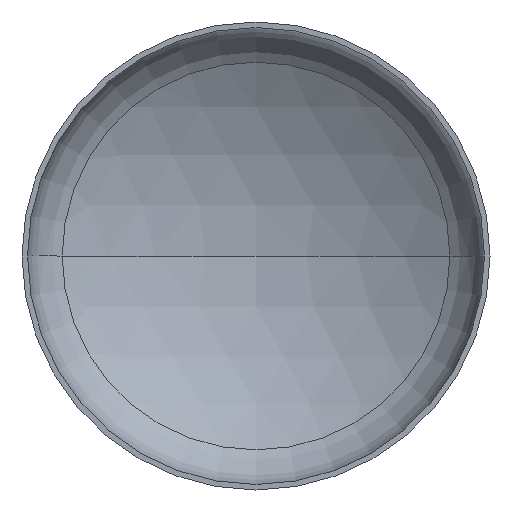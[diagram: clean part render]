
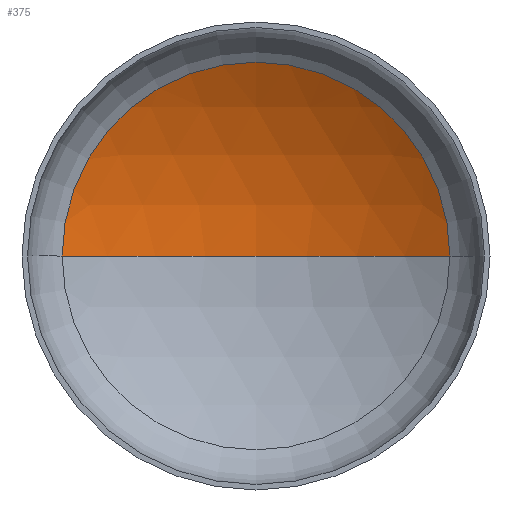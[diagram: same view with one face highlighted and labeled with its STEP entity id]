
A CAD part, front view. The second image highlights one B-rep face of the part: STEP entity #375.
In plain terms, the highlighted spherical face has radius 406 mm.
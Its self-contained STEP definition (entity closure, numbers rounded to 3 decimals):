
#7 = CIRCLE ( 'NONE', #315, 406. ) ;
#14 = EDGE_LOOP ( 'NONE', ( #90, #30, #100 ) ) ;
#30 = ORIENTED_EDGE ( 'NONE', *, *, #44, .T. ) ;
#31 = AXIS2_PLACEMENT_3D ( 'NONE', #188, #194, #306 ) ;
#36 = VERTEX_POINT ( 'NONE', #292 ) ;
#44 = EDGE_CURVE ( 'NONE', #84, #96, #7, .T. ) ;
#51 = EDGE_CURVE ( 'NONE', #84, #36, #356, .T. ) ;
#76 = EDGE_CURVE ( 'NONE', #96, #36, #349, .T. ) ;
#84 = VERTEX_POINT ( 'NONE', #294 ) ;
#90 = ORIENTED_EDGE ( 'NONE', *, *, #51, .F. ) ;
#96 = VERTEX_POINT ( 'NONE', #208 ) ;
#100 = ORIENTED_EDGE ( 'NONE', *, *, #76, .T. ) ;
#140 = SPHERICAL_SURFACE ( 'NONE', #178, 406. ) ;
#156 = CARTESIAN_POINT ( 'NONE',  ( 0., -260.507, 0. ) ) ;
#178 = AXIS2_PLACEMENT_3D ( 'NONE', #156, #215, #387 ) ;
#188 = CARTESIAN_POINT ( 'NONE',  ( 0., 86.706, 0. ) ) ;
#194 = DIRECTION ( 'NONE',  ( 0., -1., 0. ) ) ;
#208 = CARTESIAN_POINT ( 'NONE',  ( 210.427, 86.706, 0. ) ) ;
#215 = DIRECTION ( 'NONE',  ( 0., 0., -1. ) ) ;
#221 = DIRECTION ( 'NONE',  ( -1., 0., 0. ) ) ;
#225 = DIRECTION ( 'NONE',  ( 0., 0., -1. ) ) ;
#229 = CARTESIAN_POINT ( 'NONE',  ( 0., -260.507, 0. ) ) ;
#278 = FACE_OUTER_BOUND ( 'NONE', #14, .T. ) ;
#292 = CARTESIAN_POINT ( 'NONE',  ( -210.427, 86.706, 0. ) ) ;
#294 = CARTESIAN_POINT ( 'NONE',  ( 0., 145.493, 0. ) ) ;
#306 = DIRECTION ( 'NONE',  ( 1., 0., 0. ) ) ;
#315 = AXIS2_PLACEMENT_3D ( 'NONE', #229, #225, #221 ) ;
#330 = DIRECTION ( 'NONE',  ( 1., 0., 0. ) ) ;
#331 = DIRECTION ( 'NONE',  ( 0., 0., 1. ) ) ;
#332 = CARTESIAN_POINT ( 'NONE',  ( 0., -260.507, 0. ) ) ;
#347 = AXIS2_PLACEMENT_3D ( 'NONE', #332, #331, #330 ) ;
#349 = CIRCLE ( 'NONE', #31, 210.427 ) ;
#356 = CIRCLE ( 'NONE', #347, 406. ) ;
#375 = ADVANCED_FACE ( 'NONE', ( #278 ), #140, .F. ) ;
#387 = DIRECTION ( 'NONE',  ( -1., 0., 0. ) ) ;
